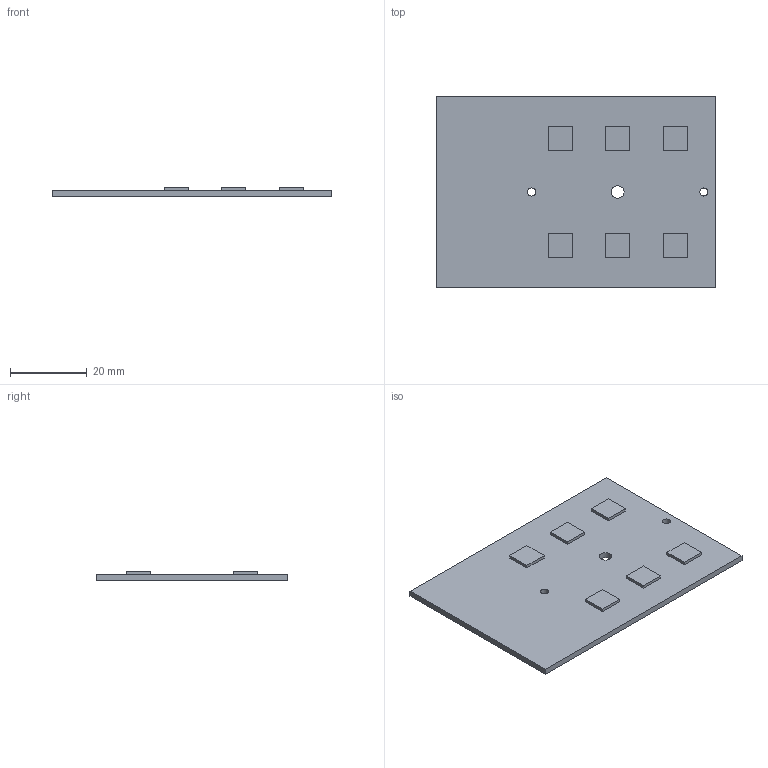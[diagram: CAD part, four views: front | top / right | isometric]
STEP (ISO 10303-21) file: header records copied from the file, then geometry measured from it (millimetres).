
FILE_DESCRIPTION(('STEP AP214'),'1');
FILE_NAME('PCB VIA2x3.stp','2025-03-31T07:50:04',(' '),(' '),'Spatial InterOp 3D',' ',' ');
FILE_SCHEMA(('AUTOMOTIVE_DESIGN { 1 0 10303 214 1 1 1 1 }'));
Length unit declared in the file: metre
Products named in the file (1): 1743403549
Bounding box: 72.6 x 50 x 2.4 mm (x, y, z)
Volume: 5973.7 mm3; surface area: 7780 mm2
Topology: 1 solids, 1 shells, 39 faces, 93 edges, 62 vertices
Faces by surface type: plane 36, cylinder 3
Full cylindrical faces by diameter (mm): 2.1 x2, 3.3 x1
Entity records: 1439 total; most frequent: CARTESIAN_POINT 192, ORIENTED_EDGE 180, DIRECTION 176, EDGE_CURVE 90, LINE 84, VECTOR 84, VERTEX_POINT 62, EDGE_LOOP 54
